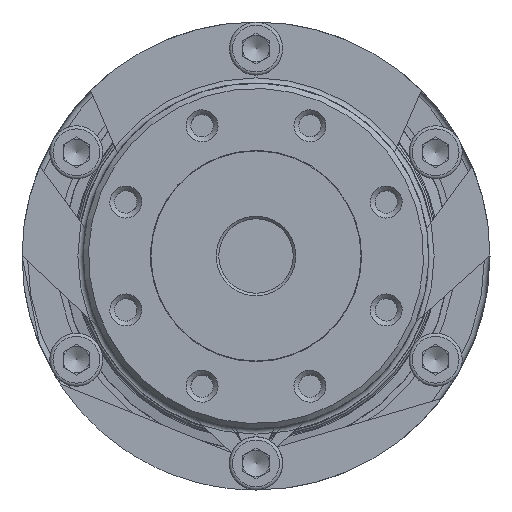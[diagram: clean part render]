
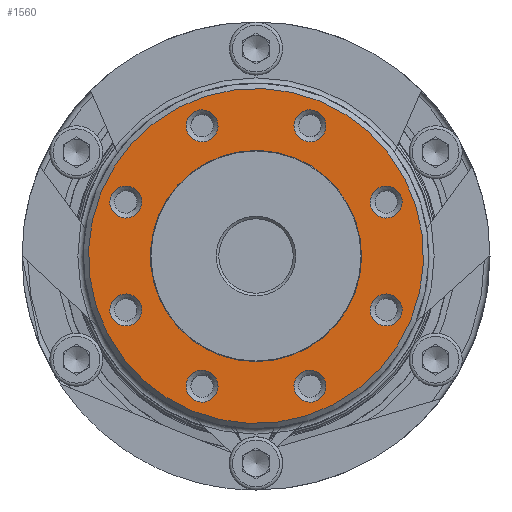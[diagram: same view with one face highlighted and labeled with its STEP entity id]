
A CAD part, left-side view. The second image highlights one B-rep face of the part: STEP entity #1560.
In plain terms, the highlighted planar face has unit normal (-1, 0, 0).
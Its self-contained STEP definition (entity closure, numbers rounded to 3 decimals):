
#1560 = ADVANCED_FACE( '', ( #3780, #3781, #3782, #3783, #3784, #3785, #3786, #3787, #3788, #3789 ), #3790, .T. );
#3780 = FACE_OUTER_BOUND( '', #6698, .T. );
#3781 = FACE_BOUND( '', #6699, .T. );
#3782 = FACE_BOUND( '', #6700, .T. );
#3783 = FACE_BOUND( '', #6701, .T. );
#3784 = FACE_BOUND( '', #6702, .T. );
#3785 = FACE_BOUND( '', #6703, .T. );
#3786 = FACE_BOUND( '', #6704, .T. );
#3787 = FACE_BOUND( '', #6705, .T. );
#3788 = FACE_BOUND( '', #6706, .T. );
#3789 = FACE_BOUND( '', #6707, .T. );
#3790 = PLANE( '', #6708 );
#6698 = EDGE_LOOP( '', ( #11310 ) );
#6699 = EDGE_LOOP( '', ( #11311 ) );
#6700 = EDGE_LOOP( '', ( #11312 ) );
#6701 = EDGE_LOOP( '', ( #11313 ) );
#6702 = EDGE_LOOP( '', ( #11314 ) );
#6703 = EDGE_LOOP( '', ( #11315 ) );
#6704 = EDGE_LOOP( '', ( #11316 ) );
#6705 = EDGE_LOOP( '', ( #11317 ) );
#6706 = EDGE_LOOP( '', ( #11318 ) );
#6707 = EDGE_LOOP( '', ( #11319 ) );
#6708 = AXIS2_PLACEMENT_3D( '', #11320, #11321, #11322 );
#11310 = ORIENTED_EDGE( '', *, *, #16614, .T. );
#11311 = ORIENTED_EDGE( '', *, *, #16615, .T. );
#11312 = ORIENTED_EDGE( '', *, *, #15555, .T. );
#11313 = ORIENTED_EDGE( '', *, *, #16409, .T. );
#11314 = ORIENTED_EDGE( '', *, *, #16616, .T. );
#11315 = ORIENTED_EDGE( '', *, *, #16617, .T. );
#11316 = ORIENTED_EDGE( '', *, *, #16451, .T. );
#11317 = ORIENTED_EDGE( '', *, *, #16262, .T. );
#11318 = ORIENTED_EDGE( '', *, *, #16618, .T. );
#11319 = ORIENTED_EDGE( '', *, *, #16619, .F. );
#11320 = CARTESIAN_POINT( '', ( -61.55, 18.339, 7.596 ) );
#11321 = DIRECTION( '', ( -1., 0., 0. ) );
#11322 = DIRECTION( '', ( 0., 0., 1. ) );
#15555 = EDGE_CURVE( '', #18471, #18471, #18472, .T. );
#16262 = EDGE_CURVE( '', #19606, #19606, #19607, .T. );
#16409 = EDGE_CURVE( '', #19832, #19832, #19833, .T. );
#16451 = EDGE_CURVE( '', #19893, #19893, #19894, .T. );
#16614 = EDGE_CURVE( '', #20111, #20111, #20112, .T. );
#16615 = EDGE_CURVE( '', #20113, #20113, #20114, .T. );
#16616 = EDGE_CURVE( '', #20115, #20115, #20116, .T. );
#16617 = EDGE_CURVE( '', #20117, #20117, #20118, .T. );
#16618 = EDGE_CURVE( '', #20119, #20119, #20120, .T. );
#16619 = EDGE_CURVE( '', #20121, #20121, #20122, .T. );
#18471 = VERTEX_POINT( '', #23218 );
#18472 = CIRCLE( '', #23219, 3. );
#19606 = VERTEX_POINT( '', #25378 );
#19607 = CIRCLE( '', #25379, 3. );
#19832 = VERTEX_POINT( '', #25836 );
#19833 = CIRCLE( '', #25837, 3. );
#19893 = VERTEX_POINT( '', #25937 );
#19894 = CIRCLE( '', #25938, 3. );
#20111 = VERTEX_POINT( '', #26261 );
#20112 = CIRCLE( '', #26262, 31.5 );
#20113 = VERTEX_POINT( '', #26263 );
#20114 = CIRCLE( '', #26264, 3. );
#20115 = VERTEX_POINT( '', #26265 );
#20116 = CIRCLE( '', #26266, 3. );
#20117 = VERTEX_POINT( '', #26267 );
#20118 = CIRCLE( '', #26268, 3. );
#20119 = VERTEX_POINT( '', #26269 );
#20120 = CIRCLE( '', #26270, 3. );
#20121 = VERTEX_POINT( '', #26271 );
#20122 = CIRCLE( '', #26272, 19.85 );
#23218 = CARTESIAN_POINT( '', ( -61.55, -11.289, 27.254 ) );
#23219 = AXIS2_PLACEMENT_3D( '', #29025, #29026, #29027 );
#25378 = CARTESIAN_POINT( '', ( -61.55, 21.711, -11.289 ) );
#25379 = AXIS2_PLACEMENT_3D( '', #30030, #30031, #30032 );
#25836 = CARTESIAN_POINT( '', ( -61.55, -25.631, 12.913 ) );
#25837 = AXIS2_PLACEMENT_3D( '', #30212, #30213, #30214 );
#25937 = CARTESIAN_POINT( '', ( -61.55, 7.369, -25.631 ) );
#25938 = AXIS2_PLACEMENT_3D( '', #30249, #30250, #30251 );
#26261 = CARTESIAN_POINT( '', ( -61.55, 29.102, 12.055 ) );
#26262 = AXIS2_PLACEMENT_3D( '', #30489, #30490, #30491 );
#26263 = CARTESIAN_POINT( '', ( -61.55, 7.369, 23.335 ) );
#26264 = AXIS2_PLACEMENT_3D( '', #30492, #30493, #30494 );
#26265 = CARTESIAN_POINT( '', ( -61.55, -25.631, -7.369 ) );
#26266 = AXIS2_PLACEMENT_3D( '', #30495, #30496, #30497 );
#26267 = CARTESIAN_POINT( '', ( -61.55, -11.289, -21.711 ) );
#26268 = AXIS2_PLACEMENT_3D( '', #30498, #30499, #30500 );
#26269 = CARTESIAN_POINT( '', ( -61.55, 21.711, 8.993 ) );
#26270 = AXIS2_PLACEMENT_3D( '', #30501, #30502, #30503 );
#26271 = CARTESIAN_POINT( '', ( -61.55, 18.339, 7.596 ) );
#26272 = AXIS2_PLACEMENT_3D( '', #30504, #30505, #30506 );
#29025 = CARTESIAN_POINT( '', ( -61.55, -10.141, 24.483 ) );
#29026 = DIRECTION( '', ( 1., 0., 0. ) );
#29027 = DIRECTION( '', ( 0., -0.383, 0.924 ) );
#30030 = CARTESIAN_POINT( '', ( -61.55, 24.483, -10.141 ) );
#30031 = DIRECTION( '', ( 1., 0., 0. ) );
#30032 = DIRECTION( '', ( 0., -0.924, -0.383 ) );
#30212 = CARTESIAN_POINT( '', ( -61.55, -24.483, 10.141 ) );
#30213 = DIRECTION( '', ( 1., 0., 0. ) );
#30214 = DIRECTION( '', ( 0., -0.383, 0.924 ) );
#30249 = CARTESIAN_POINT( '', ( -61.55, 10.141, -24.483 ) );
#30250 = DIRECTION( '', ( 1., 0., 0. ) );
#30251 = DIRECTION( '', ( 0., -0.924, -0.383 ) );
#30489 = CARTESIAN_POINT( '', ( -61.55, 0., 0. ) );
#30490 = DIRECTION( '', ( -1., 0., 0. ) );
#30491 = DIRECTION( '', ( 0., 0.924, 0.383 ) );
#30492 = CARTESIAN_POINT( '', ( -61.55, 10.141, 24.483 ) );
#30493 = DIRECTION( '', ( 1., 0., 0. ) );
#30494 = DIRECTION( '', ( 0., -0.924, -0.383 ) );
#30495 = CARTESIAN_POINT( '', ( -61.55, -24.483, -10.141 ) );
#30496 = DIRECTION( '', ( 1., 0., 0. ) );
#30497 = DIRECTION( '', ( 0., -0.383, 0.924 ) );
#30498 = CARTESIAN_POINT( '', ( -61.55, -10.141, -24.483 ) );
#30499 = DIRECTION( '', ( 1., 0., 0. ) );
#30500 = DIRECTION( '', ( 0., -0.383, 0.924 ) );
#30501 = CARTESIAN_POINT( '', ( -61.55, 24.483, 10.141 ) );
#30502 = DIRECTION( '', ( 1., 0., 0. ) );
#30503 = DIRECTION( '', ( 0., -0.924, -0.383 ) );
#30504 = CARTESIAN_POINT( '', ( -61.55, 0., 0. ) );
#30505 = DIRECTION( '', ( -1., 0., 0. ) );
#30506 = DIRECTION( '', ( 0., 0.924, 0.383 ) );
